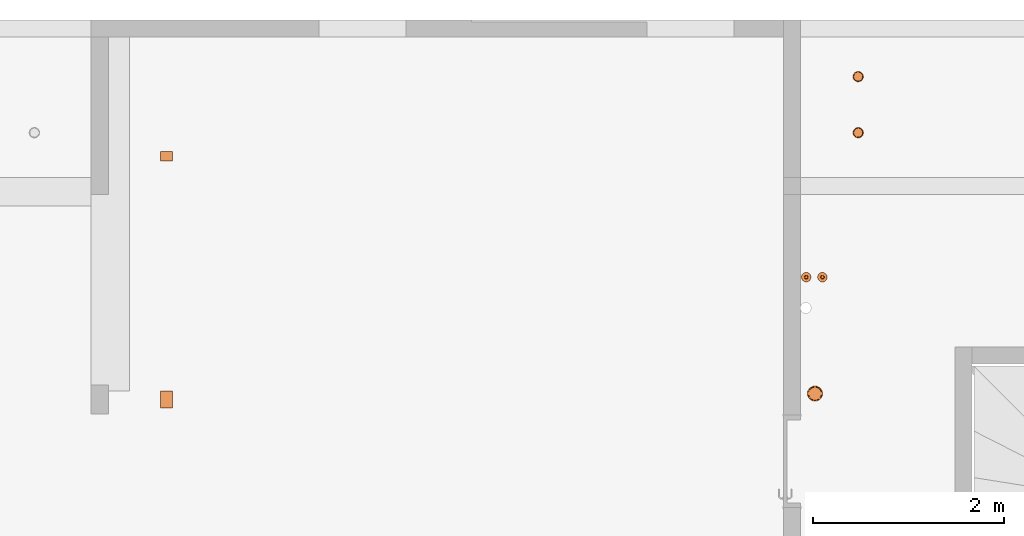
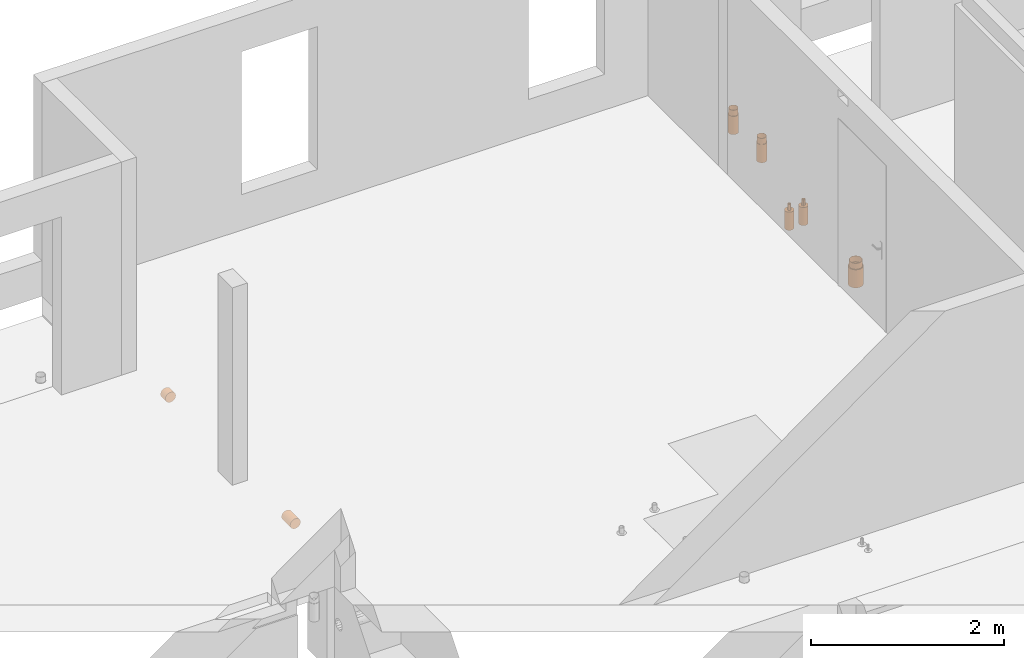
# One storey, part 34 of 34: 7 proxies.
"""IFC2X3 building model written with IfcOpenShell, lengths in centimetres."""

from ifc_helpers import new_model, entity, si_unit, converted_unit, derived_unit, direction, frame, frame_2d, origin, origin_2d_with_axis, place, context, subcontext, project, spatial, circle, hollow_circle, extrude, source, transform, mapped, material, type_object, type_shapes, element, save


model = new_model("IFC2X3")

# Units and contexts
model_context = context("Model", 3, precision=0.001, world=origin(), true_north=direction((6.12303176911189e-17, 1.0)))
body_context = subcontext(model_context, "Body", "Model", "MODEL_VIEW")
ifc_project = project(units=[si_unit("LENGTHUNIT", "METRE", prefix="CENTI"), si_unit("AREAUNIT", "SQUARE_METRE"), si_unit("VOLUMEUNIT", "CUBIC_METRE"), converted_unit("PLANEANGLEUNIT", "DEGREE", entity("IfcRatioMeasure", 0.0174532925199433), si_unit("PLANEANGLEUNIT", "RADIAN"), dimensions=[0, 0, 0, 0, 0, 0, 0]), si_unit("MASSUNIT", "GRAM", prefix="KILO"), derived_unit("MASSDENSITYUNIT", [(si_unit("MASSUNIT", "GRAM", prefix="KILO"), 1), (si_unit("LENGTHUNIT", "METRE"), -3)]), si_unit("TIMEUNIT", "SECOND"), si_unit("FREQUENCYUNIT", "HERTZ"), si_unit("THERMODYNAMICTEMPERATUREUNIT", "DEGREE_CELSIUS"), derived_unit("THERMALTRANSMITTANCEUNIT", [(si_unit("MASSUNIT", "GRAM", prefix="KILO"), 1), (si_unit("THERMODYNAMICTEMPERATUREUNIT", "KELVIN"), -1), (si_unit("TIMEUNIT", "SECOND"), -3)]), derived_unit("VOLUMETRICFLOWRATEUNIT", [(si_unit("LENGTHUNIT", "METRE"), 3), (si_unit("TIMEUNIT", "SECOND"), -1)]), si_unit("ELECTRICCURRENTUNIT", "AMPERE"), si_unit("ELECTRICVOLTAGEUNIT", "VOLT"), si_unit("POWERUNIT", "WATT"), si_unit("FORCEUNIT", "NEWTON"), si_unit("ILLUMINANCEUNIT", "LUX"), si_unit("LUMINOUSFLUXUNIT", "LUMEN"), si_unit("LUMINOUSINTENSITYUNIT", "CANDELA"), derived_unit("USERDEFINED", [(si_unit("MASSUNIT", "GRAM", prefix="KILO"), -1), (si_unit("LENGTHUNIT", "METRE"), -2), (si_unit("TIMEUNIT", "SECOND"), 3), (si_unit("LUMINOUSFLUXUNIT", "LUMEN"), 1)]), derived_unit("LINEARVELOCITYUNIT", [(si_unit("LENGTHUNIT", "METRE"), 1), (si_unit("TIMEUNIT", "SECOND"), -1)]), si_unit("PRESSUREUNIT", "PASCAL"), derived_unit("USERDEFINED", [(si_unit("LENGTHUNIT", "METRE"), -2), (si_unit("MASSUNIT", "GRAM", prefix="KILO"), 1), (si_unit("TIMEUNIT", "SECOND"), -2)])], contexts=[model_context])

# Site, building, storey
site_placement = place(None, origin())
site = spatial("IfcSite", under=ifc_project, at=site_placement, Name="Default", CompositionType="ELEMENT")
building_placement = place(site_placement, origin())
building = spatial("IfcBuilding", under=site, at=building_placement, Name="CAGE 03", CompositionType="ELEMENT")
storey_placement = place(building_placement, frame((0.0, 0.0, 340.0)))
storey = spatial("IfcBuildingStorey", under=building, at=storey_placement, Name="R+1", CompositionType="ELEMENT", Elevation=340.0)

# Proxies
ifc_material_1 = material(Name="Verre")
building_element_proxy_type_1 = type_object("IfcBuildingElementProxyType", Name="Standard", PredefinedType="NOTDEFINED", material=ifc_material_1)
shared_shape_1 = source(origin(), body_context, "Body", "SweptSolid", [
    extrude(circle(Radius=6.25, at=origin_2d_with_axis()), frame((9363.4037992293, 4886.66066607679, 260.21), z_axis=(0.0, 1.0, 0.0), x_axis=(-1.0, 0.0, 0.0)), (0.0, 0.0, 1.0), 17.9999999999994),
])
type_shapes(building_element_proxy_type_1, [shared_shape_1])
proxy_1_placement = place(storey_placement, frame((0.0, 0.0, -340.0)))
element("IfcBuildingElementProxy", 1, at=proxy_1_placement, inside=storey, type_object=building_element_proxy_type_1, material=ifc_material_1, Name="RESERVATION CIRC_MUR:Standard", ObjectType="Standard", context=body_context, shape_type="MappedRepresentation", body=[
    mapped(shared_shape_1, transform((0.0, 0.0, 0.0), scale=1.0)),
])
building_element_proxy_type_2 = type_object("IfcBuildingElementProxyType", Name="Standard", PredefinedType="NOTDEFINED", material=ifc_material_1)
shared_shape_2 = source(origin(), body_context, "Body", "SweptSolid", [
    extrude(circle(Radius=6.25, at=origin_2d_with_axis()), frame((9363.4037992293, 5145.66066607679, 263.21), z_axis=(0.0, 1.0, 0.0), x_axis=(-1.0, 0.0, 0.0)), (0.0, 0.0, 1.0), 9.99999999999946),
])
type_shapes(building_element_proxy_type_2, [shared_shape_2])
proxy_2_placement = place(storey_placement, frame((0.0, 0.0, -340.0)))
element("IfcBuildingElementProxy", 2, at=proxy_2_placement, inside=storey, type_object=building_element_proxy_type_2, material=ifc_material_1, Name="RESERVATION CIRC_MUR:Standard", ObjectType="Standard", context=body_context, shape_type="MappedRepresentation", body=[
    mapped(shared_shape_2, transform((0.0, 0.0, 0.0), scale=1.0)),
])
ifc_material_2 = material(Name="Conduit EP")
building_element_proxy_type_3 = type_object("IfcBuildingElementProxyType", Name="EP 100", PredefinedType="NOTDEFINED", material=ifc_material_2)
shared_shape_3 = source(origin(), body_context, "Body", "SweptSolid", [
    extrude(circle(Radius=5.5, at=frame_2d((0.0, -8.88549515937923e-15), x_axis=(1.0, 0.0))), frame((0.0, 0.0, -23.0)), (0.0, 0.0, 1.0), 23.0),
    extrude(hollow_circle(Radius=5.0, WallThickness=0.25, at=frame_2d((0.0, -8.07772287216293e-15), x_axis=(1.0, 0.0))), frame((0.0, 0.0, -23.0)), (0.0, 0.0, 1.0), 30.5),
])
type_shapes(building_element_proxy_type_3, [shared_shape_3])
for number, where, name in (
    (3, (10088.8602022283, 5175.42720635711, -25.0), "Galette - Résa - PVC:EP 100"),
    (4, (10088.8602022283, 5234.24642234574, -25.0), "Galette - Résa - PVC:EP 100"),
):
    element("IfcBuildingElementProxy", number, at=place(storey_placement, frame(where)), inside=storey, type_object=building_element_proxy_type_3, material=ifc_material_2, Name=name, ObjectType="EP 100", context=body_context, shape_type="MappedRepresentation", body=[
        mapped(shared_shape_3, transform((0.0, 0.0, 0.0), scale=1.0)),
    ])
building_element_proxy_type_4 = type_object("IfcBuildingElementProxyType", Name="EP 140", PredefinedType="NOTDEFINED", material=ifc_material_2)
shared_shape_4 = source(origin(), body_context, "Body", "SweptSolid", [
    extrude(circle(Radius=8.0, at=frame_2d((0.0, -1.29243565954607e-14), x_axis=(1.0, 0.0))), frame((0.0, 0.0, -23.0)), (0.0, 0.0, 1.0), 23.0),
    extrude(hollow_circle(Radius=7.0, WallThickness=0.25, at=frame_2d((0.0, -1.13088120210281e-14), x_axis=(1.0, 0.0))), frame((0.0, 0.0, -23.0)), (0.0, 0.0, 1.0), 30.5),
])
type_shapes(building_element_proxy_type_4, [shared_shape_4])
proxy_3_placement = place(storey_placement, frame((10043.5493321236, 4901.77315539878, -4.46999646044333e-07)))
element("IfcBuildingElementProxy", 5, at=proxy_3_placement, inside=storey, type_object=building_element_proxy_type_4, material=ifc_material_2, Name="Galette - Résa - PVC:EP 140", ObjectType="EP 140", context=body_context, shape_type="MappedRepresentation", body=[
    mapped(shared_shape_4, transform((0.0, 0.0, 0.0), scale=1.0)),
])
ifc_material_3 = material(Name="Circuit CHF Aller")
building_element_proxy_type_5 = type_object("IfcBuildingElementProxyType", Name="CHF Aller 40", PredefinedType="NOTDEFINED", material=ifc_material_3)
shared_shape_5 = source(origin(), body_context, "Body", "SweptSolid", [
    extrude(circle(Radius=5.0, at=frame_2d((0.0, -8.07772287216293e-15), x_axis=(1.0, 0.0))), frame((0.0, 0.0, -23.0)), (0.0, 0.0, 1.0), 23.0),
    extrude(hollow_circle(Radius=2.0, WallThickness=0.4, at=frame_2d((0.0, -3.23108914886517e-15), x_axis=(1.0, 0.0))), frame((0.0, 0.0, -23.0)), (0.0, 0.0, 1.0), 30.5),
])
type_shapes(building_element_proxy_type_5, [shared_shape_5])
proxy_4_placement = place(storey_placement, frame((10034.3670007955, 5023.89084226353, -4.46999646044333e-07)))
element("IfcBuildingElementProxy", 6, at=proxy_4_placement, inside=storey, type_object=building_element_proxy_type_5, material=ifc_material_3, Name="Galette - Résa - PVC:CHF Aller 40", ObjectType="CHF Aller 40", context=body_context, shape_type="MappedRepresentation", body=[
    mapped(shared_shape_5, transform((0.0, 0.0, 0.0), scale=1.0)),
])
ifc_material_4 = material(Name="Circuit CHF Retour")
building_element_proxy_type_6 = type_object("IfcBuildingElementProxyType", Name="CHF Retour 42", PredefinedType="NOTDEFINED", material=ifc_material_4)
shared_shape_6 = source(origin(), body_context, "Body", "SweptSolid", [
    extrude(circle(Radius=5.0, at=frame_2d((0.0, -8.07772287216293e-15), x_axis=(1.0, 0.0))), frame((0.0, 0.0, -23.0)), (0.0, 0.0, 1.0), 23.0),
    extrude(hollow_circle(Radius=2.0, WallThickness=0.4, at=frame_2d((0.0, -3.23108914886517e-15), x_axis=(1.0, 0.0))), frame((0.0, 0.0, -23.0)), (0.0, 0.0, 1.0), 30.5),
])
type_shapes(building_element_proxy_type_6, [shared_shape_6])
proxy_5_placement = place(storey_placement, frame((10051.3670007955, 5023.89084226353, -4.46999646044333e-07)))
element("IfcBuildingElementProxy", 7, at=proxy_5_placement, inside=storey, type_object=building_element_proxy_type_6, material=ifc_material_4, Name="Galette - Résa - PVC:CHF Retour 42", ObjectType="CHF Retour 42", context=body_context, shape_type="MappedRepresentation", body=[
    mapped(shared_shape_6, transform((0.0, 0.0, 0.0), scale=1.0)),
])

save(model, "model.ifc")
